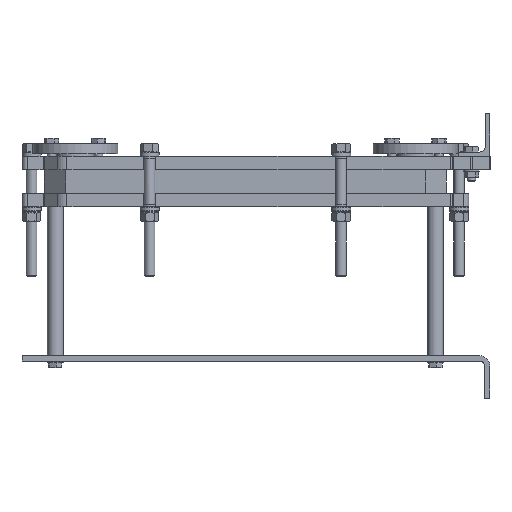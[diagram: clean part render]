
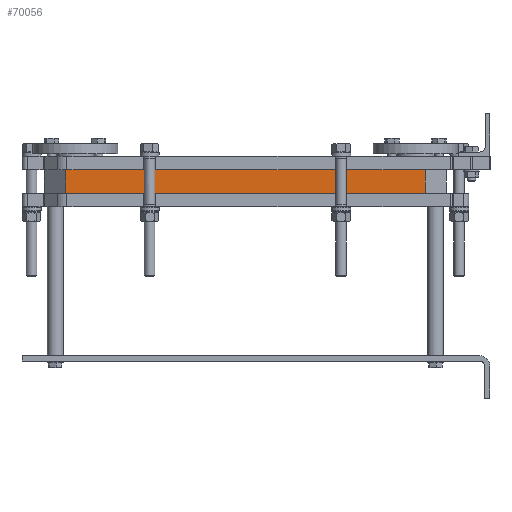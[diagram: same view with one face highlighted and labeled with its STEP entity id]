
A CAD part, left-side view. The second image highlights one B-rep face of the part: STEP entity #70056.
In plain terms, the highlighted planar face has unit normal (-1, 0, 0).
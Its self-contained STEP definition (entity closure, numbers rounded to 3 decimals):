
#686 = ORIENTED_EDGE ( 'NONE', *, *, #44028, .F. ) ;
#1666 = DIRECTION ( 'NONE',  ( 0., -1., 0. ) ) ;
#3325 = EDGE_CURVE ( 'NONE', #73149, #12651, #19494, .T. ) ;
#12297 = DIRECTION ( 'NONE',  ( 0., 0., -1. ) ) ;
#12651 = VERTEX_POINT ( 'NONE', #29132 ) ;
#12768 = DIRECTION ( 'NONE',  ( 0., 0., -1. ) ) ;
#17986 = DIRECTION ( 'NONE',  ( 0., 1., 0. ) ) ;
#19494 = LINE ( 'NONE', #58863, #60803 ) ;
#22821 = LINE ( 'NONE', #31023, #58134 ) ;
#28967 = VECTOR ( 'NONE', #12297, 1000. ) ;
#29132 = CARTESIAN_POINT ( 'NONE',  ( 29.6, 797.959, -149.9 ) ) ;
#31023 = CARTESIAN_POINT ( 'NONE',  ( 29.6, 817., -104.9 ) ) ;
#31897 = DIRECTION ( 'NONE',  ( -1., 0., 0. ) ) ;
#43594 = AXIS2_PLACEMENT_3D ( 'NONE', #47659, #31897, #17986 ) ;
#44028 = EDGE_CURVE ( 'NONE', #73407, #62678, #94960, .T. ) ;
#46106 = CARTESIAN_POINT ( 'NONE',  ( 29.6, 122.041, -149.9 ) ) ;
#46403 = ORIENTED_EDGE ( 'NONE', *, *, #3325, .T. ) ;
#47659 = CARTESIAN_POINT ( 'NONE',  ( 29.6, 122.041, -104.9 ) ) ;
#49633 = LINE ( 'NONE', #60442, #72087 ) ;
#52174 = ORIENTED_EDGE ( 'NONE', *, *, #78243, .F. ) ;
#52954 = ORIENTED_EDGE ( 'NONE', *, *, #84042, .F. ) ;
#57433 = CARTESIAN_POINT ( 'NONE',  ( 29.6, 122.041, -104.9 ) ) ;
#58134 = VECTOR ( 'NONE', #1666, 1000. ) ;
#58863 = CARTESIAN_POINT ( 'NONE',  ( 29.6, 797.959, -104.9 ) ) ;
#60442 = CARTESIAN_POINT ( 'NONE',  ( 29.6, 817., -149.9 ) ) ;
#60803 = VECTOR ( 'NONE', #12768, 1000. ) ;
#62678 = VERTEX_POINT ( 'NONE', #46106 ) ;
#65494 = CARTESIAN_POINT ( 'NONE',  ( 29.6, 797.959, -104.9 ) ) ;
#69435 = PLANE ( 'NONE',  #43594 ) ;
#69547 = DIRECTION ( 'NONE',  ( 0., 1., 0. ) ) ;
#70056 = ADVANCED_FACE ( 'NONE', ( #77126 ), #69435, .T. ) ;
#70299 = CARTESIAN_POINT ( 'NONE',  ( 29.6, 122.041, -104.9 ) ) ;
#72087 = VECTOR ( 'NONE', #69547, 1000. ) ;
#73149 = VERTEX_POINT ( 'NONE', #65494 ) ;
#73407 = VERTEX_POINT ( 'NONE', #70299 ) ;
#77126 = FACE_OUTER_BOUND ( 'NONE', #94231, .T. ) ;
#78243 = EDGE_CURVE ( 'NONE', #62678, #12651, #49633, .T. ) ;
#84042 = EDGE_CURVE ( 'NONE', #73149, #73407, #22821, .T. ) ;
#94231 = EDGE_LOOP ( 'NONE', ( #52954, #46403, #52174, #686 ) ) ;
#94960 = LINE ( 'NONE', #57433, #28967 ) ;
